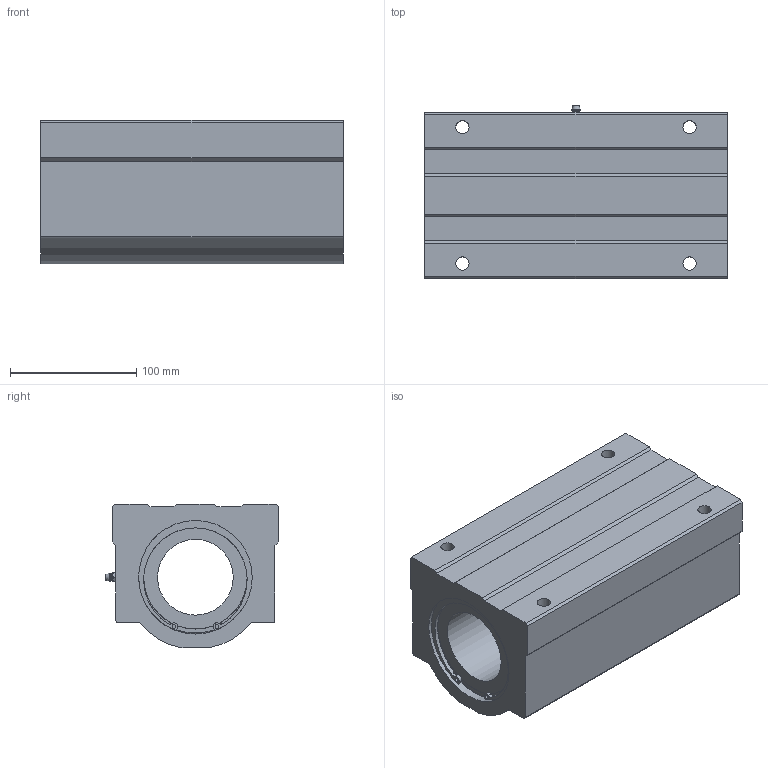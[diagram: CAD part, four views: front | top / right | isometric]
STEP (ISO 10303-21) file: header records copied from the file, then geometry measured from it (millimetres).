
FILE_DESCRIPTION((''),'2;1');
FILE_NAME('D:\製品 (図面)\カタログ用3D\リニアベアリング関連\STEP形式\LHW-B\LHW60B.stp','2010-05-21T10:53:05',('Tsuchiya'),(''),'Autodesk Inventor 10','Autodesk Inventor 10','');
FILE_SCHEMA(('AUTOMOTIVE_DESIGN { 1 0 10303 214 1 1 1 1 }'));
Length unit declared in the file: millimetre
Products named in the file (1): LHW60B
Bounding box: 240 x 137.4 x 114 mm (x, y, z)
Volume: 2418011.6 mm3; surface area: 213505.4 mm2
Topology: 1 solids, 7 shells, 126 faces, 301 edges, 193 vertices
Faces by surface type: plane 50, bspline 40, cylinder 25, cone 7, torus 2, sphere 2
Full cylindrical faces by diameter (mm): 3 x2, 60 x2, 82 x2, 86.5 x2, 90 x8
Entity records: 3717 total; most frequent: CARTESIAN_POINT 1061, DIRECTION 534, ORIENTED_EDGE 488, EDGE_CURVE 244, AXIS2_PLACEMENT_3D 215, EDGE_LOOP 196, VERTEX_POINT 176, CIRCLE 128
